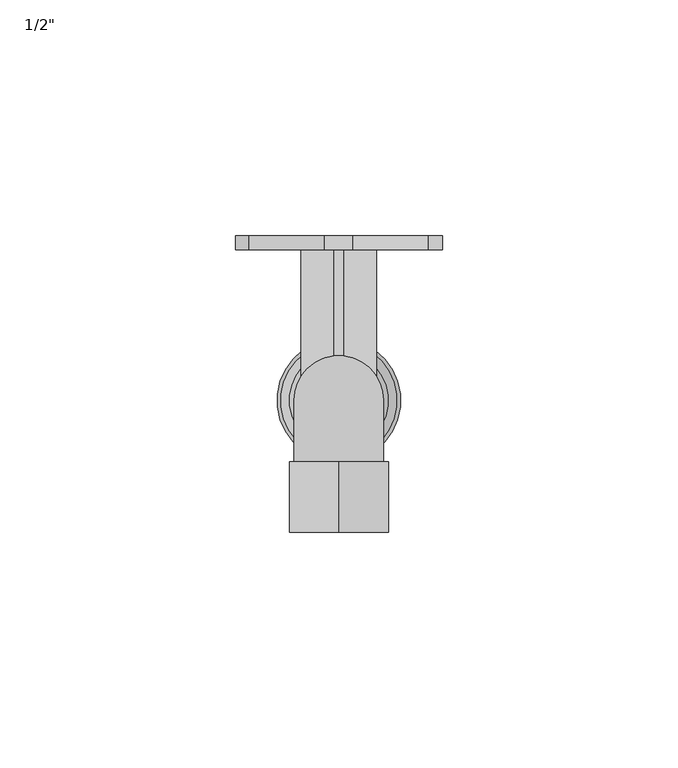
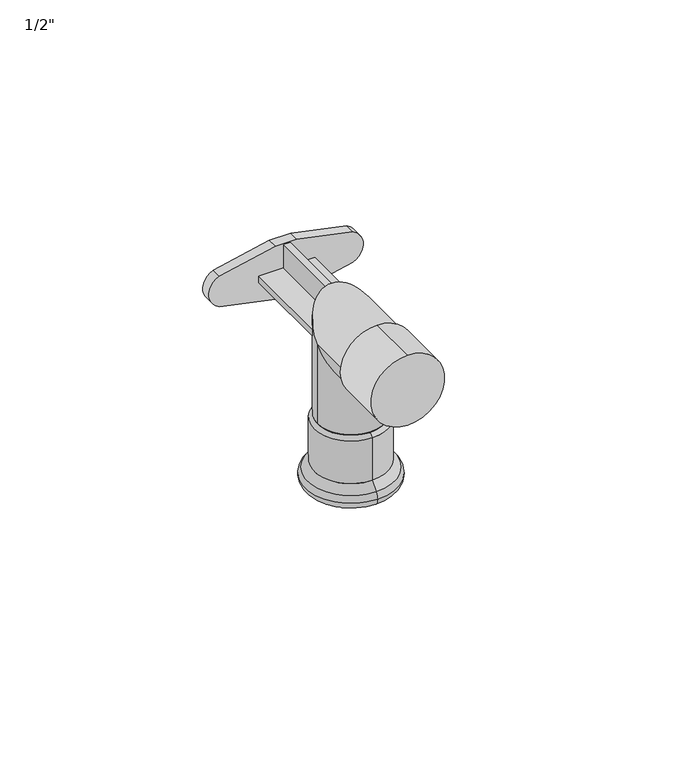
"""IFC4 building model written with IfcOpenShell, lengths in millimetres: pipe fitting geometry."""

from ifc_helpers import new_model, si_unit, point, frame, frame_2d, origin, origin_with_axes, origin_2d, place, context, project, spatial, polyline, circle_curve, ellipse_curve, trimmed, segment, composite_curve, outline, extrude, source, transform, mapped, element, save
from ifc_brep_helpers import plane_surface, cylinder_surface, revolved_surface, advanced_brep


def pipe_fitting_b2fb5b33(model_context):
    return source(origin(), model_context, "Body", "SolidModel", [
        extrude(outline(composite_curve([segment(trimmed(circle_curve(frame_2d((0.0, 17.0)), 5.0), [point((-4.5609756, 19.0487805))], [point((4.5609756, 19.0487805))], False, "CARTESIAN"), True, "CONTINUOUS"), segment(polyline([(4.5609756, 19.0487805), (8.0, 3.0), (8.0, -3.0), (4.5609756, -19.0487805)]), True, "CONTINUOUS"), segment(trimmed(circle_curve(frame_2d((0.0, -17.0)), 5.0), [point((4.5609756, -19.0487805))], [point((-4.5609756, -19.0487805))], False, "CARTESIAN"), True, "CONTINUOUS"), segment(polyline([(-4.5609756, -19.0487805), (-8.0, -3.0), (-8.0, 3.0), (-4.5609756, 19.0487805)]), True, "CONTINUOUS")], self_intersect=False)), frame((0.0, 32.0, 0.0), z_axis=(0.0, 1.0, 0.0), x_axis=(0.0, 0.0, 1.0)), (0.0, 0.0, 1.0), 3.0),
        extrude(outline(polyline([(-1.0, 8.0), (1.0, 8.0), (1.0, 1.0), (8.0, 1.0), (8.0, -1.0), (1.0, -1.0), (1.0, -8.0), (-1.0, -8.0), (-1.0, -1.0), (-8.0, -1.0), (-8.0, 1.0), (-1.0, 1.0), (-1.0, 8.0)])), frame((0.0, 0.0, 0.0), z_axis=(0.0, 1.0, 0.0), x_axis=(0.0, 0.0, 1.0)), (0.0, 0.0, 1.0), 32.0),
        advanced_brep(
        [(0.0, -13.125, -41.8921278), (0.0, 13.125, -41.8921278), (0.0, 11.3484544, -44.432052), (0.0, -11.3484544, -44.432052), (0.0, -12.4370225, -40.0922627), (0.0, 12.4370225, -40.0922627), (0.0, -10.5, -37.7838092), (0.0, 10.5, -37.7838092), (0.0, -10.5, -25.0), (0.0, 10.5, -25.0), (0.0, -9.5, -24.0), (0.0, 9.5, -24.0), (0.0, 0.0, -24.0), (0.0, -9.7880302, -45.0), (0.0, 9.7880302, -45.0), (0.0, 0.0, -45.0)],
        [
            (0, 1, circle_curve(frame((0.0, 0.0, -41.8921278), z_axis=(0.0, 0.0, -1.0), x_axis=(0.0, 1.0, 0.0)), 13.125)),
            (1, 2, circle_curve(frame((0.0, 10.4249993, -41.89488), z_axis=(-1.0, 0.0, 0.0), x_axis=(0.0, 1.0, 0.0)), 2.7000021)),
            (2, 3, circle_curve(frame((0.0, 0.0, -44.432052), z_axis=(0.0, 0.0, 1.0), x_axis=(0.0, 1.0, 0.0)), 11.3484544)),
            (3, 0, circle_curve(frame((0.0, -10.4249993, -41.89488), z_axis=(-1.0, 0.0, 0.0), x_axis=(0.0, -1.0, 0.0)), 2.7000021)),
            (1, 0, circle_curve(frame((0.0, 0.0, -41.8921278), z_axis=(0.0, 0.0, -1.0), x_axis=(0.0, 1.0, 0.0)), 13.125)),
            (3, 2, circle_curve(frame((0.0, 0.0, -44.432052), z_axis=(0.0, 0.0, 1.0), x_axis=(0.0, 1.0, 0.0)), 11.3484544)),
            (4, 5, circle_curve(frame((0.0, 0.0, -40.0922627), z_axis=(0.0, 0.0, -1.0), x_axis=(0.0, 1.0, 0.0)), 12.4370225)),
            (5, 1, circle_curve(frame((0.0, 10.4230333, -41.8935049), z_axis=(-1.0, 0.0, 0.0), x_axis=(0.0, 1.0, 0.0)), 2.701967)),
            (0, 4, circle_curve(frame((0.0, -10.4230333, -41.8935049), z_axis=(-1.0, 0.0, 0.0), x_axis=(0.0, -1.0, 0.0)), 2.701967)),
            (5, 4, circle_curve(frame((0.0, 0.0, -40.0922627), z_axis=(0.0, 0.0, -1.0), x_axis=(0.0, 1.0, 0.0)), 12.4370225)),
            (6, 7, circle_curve(frame((0.0, 0.0, -37.7838092), z_axis=(0.0, 0.0, -1.0), x_axis=(0.0, 1.0, 0.0)), 10.5)),
            (7, 5),
            (4, 6),
            (7, 6, circle_curve(frame((0.0, 0.0, -37.7838092), z_axis=(0.0, 0.0, -1.0), x_axis=(0.0, 1.0, 0.0)), 10.5)),
            (8, 9, circle_curve(frame((0.0, 0.0, -25.0), z_axis=(0.0, 0.0, -1.0), x_axis=(0.0, 1.0, 0.0)), 10.5)),
            (9, 7),
            (6, 8),
            (9, 8, circle_curve(frame((0.0, 0.0, -25.0), z_axis=(0.0, 0.0, -1.0), x_axis=(0.0, 1.0, 0.0)), 10.5)),
            (10, 11, circle_curve(frame((0.0, 0.0, -24.0), z_axis=(0.0, 0.0, -1.0), x_axis=(0.0, 1.0, 0.0)), 9.5)),
            (11, 9),
            (8, 10),
            (11, 10, circle_curve(frame((0.0, 0.0, -24.0), z_axis=(0.0, 0.0, -1.0), x_axis=(0.0, 1.0, 0.0)), 9.5)),
            (12, 11),
            (10, 12),
            (13, 14, circle_curve(frame((0.0, 0.0, -45.0), z_axis=(0.0, 0.0, -1.0), x_axis=(0.0, 1.0, 0.0)), 9.7880302)),
            (14, 15),
            (15, 13),
            (14, 13, circle_curve(frame((0.0, 0.0, -45.0), z_axis=(0.0, 0.0, -1.0), x_axis=(0.0, 1.0, 0.0)), 9.7880302)),
            (2, 14),
            (13, 3),
        ],
        [
            revolved_surface(trimmed(ellipse_curve(frame((0.0, 10.4249993, -41.89488), z_axis=(1.0, 0.0, 0.0), x_axis=(0.0, 1.0, 0.0)), 2.7000021, 2.7000021), [point((0.0, 11.3484544, -44.432052))], [point((0.0, 13.125, -41.8921278))], True, "CARTESIAN"), (0.0, 0.0, 2741.4742198), (0.0, 0.0, 1.0)),
            revolved_surface(trimmed(ellipse_curve(frame((0.0, 10.4230333, -41.8935049), z_axis=(1.0, 0.0, 0.0), x_axis=(0.0, 1.0, 0.0)), 2.701967, 2.701967), [point((0.0, 13.125, -41.8921278))], [point((0.0, 12.4370225, -40.0922627))], True, "CARTESIAN"), (0.0, 0.0, 2741.4742198), (0.0, 0.0, 1.0)),
            revolved_surface(polyline([(0.0, 12.4370225, -40.0922627), (0.0, 10.5, -37.7838092)]), (0.0, 0.0, 2741.4742198), (0.0, 0.0, 1.0)),
            cylinder_surface(frame((0.0, 0.0, 2741.4742198), z_axis=(0.0, 0.0, 1.0), x_axis=(0.0, 1.0, 0.0)), 10.5),
            revolved_surface(polyline([(0.0, 10.5, -25.0), (0.0, 9.5, -24.0)]), (0.0, 0.0, 2741.4742198), (0.0, 0.0, 1.0)),
            plane_surface(frame((0.0, 0.0, -24.0), z_axis=(0.0, 0.0, 1.0), x_axis=(0.0, 1.0, 0.0))),
            plane_surface(frame((0.0, 0.0, -45.0), z_axis=(0.0, 0.0, -1.0), x_axis=(0.0, 1.0, 0.0))),
            revolved_surface(polyline([(0.0, 9.7880302, -45.0), (0.0, 11.3484544, -44.432052)]), (0.0, 0.0, 2741.4742198), (0.0, 0.0, 1.0)),
        ],
        [
            (0, [[1, 2, 3, 4]]),
            (0, [[5, -4, 6, -2]]),
            (1, [[7, 8, -1, 9]]),
            (1, [[10, -9, -5, -8]]),
            (2, [[11, 12, -7, 13]]),
            (2, [[14, -13, -10, -12]]),
            (3, [[15, 16, -11, 17]]),
            (3, [[18, -17, -14, -16]]),
            (4, [[19, 20, -15, 21]]),
            (4, [[22, -21, -18, -20]]),
            (5, [[23, -19, 24]]),
            (5, [[-24, -22, -23]]),
            (6, [[25, 26, 27]]),
            (6, [[28, -27, -26]]),
            (7, [[-3, 29, -25, 30]]),
            (7, [[-6, -30, -28, -29]]),
        ],
    ),
        advanced_brep(
        [(-9.5, -13.0, 0.0), (9.5, -13.0, 0.0), (-9.5, 0.0, 0.0), (9.5, 0.0, 0.0), (-9.5, 0.0, -24.0), (9.5, 0.0, -24.0)],
        [
            (0, 1, circle_curve(frame((0.0, -13.0, 0.0), z_axis=(0.0, -1.0, 0.0), x_axis=(1.0, 0.0, 0.0)), 9.5)),
            (1, 0, circle_curve(frame((0.0, -13.0, 0.0), z_axis=(0.0, -1.0, 0.0), x_axis=(1.0, 0.0, 0.0)), 9.5)),
            (0, 2),
            (2, 3, ellipse_curve(frame((0.0, 0.0, 0.0), z_axis=(0.0, -0.7071067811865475, 0.7071067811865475), x_axis=(0.0, -0.7071067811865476, -0.7071067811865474)), 13.4350288, 9.5)),
            (3, 1),
            (3, 2, ellipse_curve(frame((0.0, 0.0, 0.0), z_axis=(0.0, -0.7071067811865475, 0.7071067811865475), x_axis=(0.0, -0.7071067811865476, -0.7071067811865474)), 13.4350288, 9.5)),
            (4, 5, circle_curve(frame((0.0, 0.0, -24.0), z_axis=(0.0, 0.0, -1.0), x_axis=(1.0, 0.0, 0.0)), 9.5)),
            (5, 4, circle_curve(frame((0.0, 0.0, -24.0), z_axis=(0.0, 0.0, -1.0), x_axis=(1.0, 0.0, 0.0)), 9.5)),
            (2, 4),
            (5, 3),
        ],
        [
            plane_surface(frame((0.0, -13.0, 0.0), z_axis=(0.0, -1.0, 0.0), x_axis=(1.0, 0.0, 0.0))),
            cylinder_surface(frame((0.0, -13.0, 0.0), z_axis=(0.0, -1.0, 0.0), x_axis=(1.0, 0.0, 0.0)), 9.5),
            plane_surface(frame((0.0, 0.0, -24.0), z_axis=(0.0, 0.0, -1.0), x_axis=(1.0, 0.0, 0.0))),
            cylinder_surface(origin_with_axes(), 9.5),
        ],
        [
            (0, [[1, 2]]),
            (1, [[-1, 3, 4, 5]]),
            (1, [[-2, -5, 6, -3]]),
            (2, [[7, 8]]),
            (3, [[-4, 9, -8, 10]]),
            (3, [[-6, -10, -7, -9]]),
        ],
    ),
        extrude(outline(composite_curve([segment(trimmed(circle_curve(origin_2d(), 10.5), [point((-10.5, 0.0))], [point((10.5, 0.0))], False, "CARTESIAN"), True, "CONTINUOUS"), segment(trimmed(circle_curve(origin_2d(), 10.5), [point((10.5, 0.0))], [point((-10.5, 0.0))], False, "CARTESIAN"), True, "CONTINUOUS")], self_intersect=False)), frame((0.0, -28.0, 0.0), z_axis=(0.0, 1.0, 0.0), x_axis=(0.0, 0.0, 1.0)), (0.0, 0.0, 1.0), 15.0),
    ])


if __name__ == "__main__":
    model = new_model("IFC4")
    model_context = context("Model", 3, world=origin())
    ifc_project = project(units=[si_unit("LENGTHUNIT", "METRE", prefix="MILLI")], contexts=[model_context])
    site = spatial("IfcSite", under=ifc_project)
    building = spatial("IfcBuilding", under=site)
    placement = place(None, origin())
    pipe_fitting_shape = pipe_fitting_b2fb5b33(model_context)
    element("IfcPipeFitting", 1, ObjectType="KAN-therm Inox podejście pod baterię z uszami długie : 1/2\"", at=placement, inside=building, context=model_context, shape_type="MappedRepresentation", body=[
        mapped(pipe_fitting_shape, transform((0.0, 0.0, 0.0), x_axis=(1.0, 0.0, 0.0), y_axis=(0.0, 1.0, 0.0), z_axis=(0.0, 0.0, 1.0))),
    ])
    save(model, "model.ifc")
